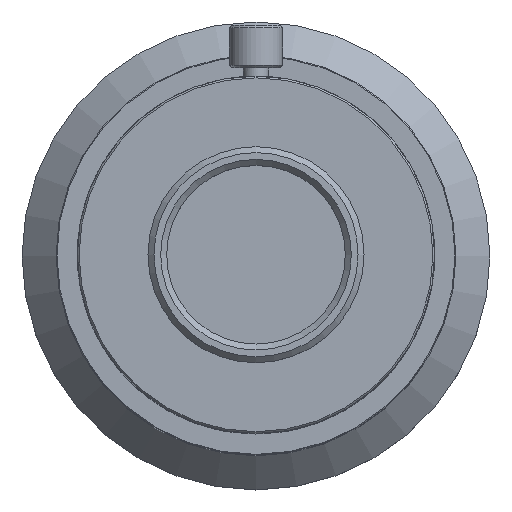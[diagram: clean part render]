
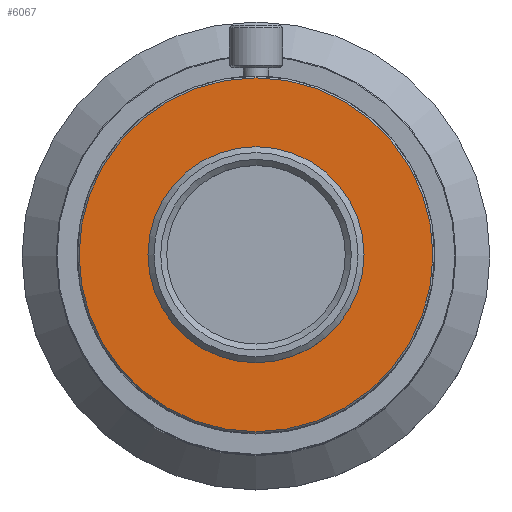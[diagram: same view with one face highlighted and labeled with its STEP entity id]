
A CAD part, top view. The second image highlights one B-rep face of the part: STEP entity #6067.
In plain terms, the highlighted planar face has unit normal (0, 0, 1).
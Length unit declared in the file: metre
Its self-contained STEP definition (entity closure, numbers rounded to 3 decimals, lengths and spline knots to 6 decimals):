
#6067=ADVANCED_FACE('0:24063',(#15170,#15171),#15172,.T.);
#11465=EDGE_CURVE('0:11517',#22397,#22397,#22398,.T.);
#11467=EDGE_CURVE('0:11505',#22400,#22400,#22401,.T.);
#15170=FACE_BOUND('',#26233,.T.);
#15171=FACE_OUTER_BOUND('',#26234,.T.);
#15172=PLANE('',#26235);
#22397=VERTEX_POINT('',#43610);
#22398=CIRCLE('',#43611,0.0121);
#22400=VERTEX_POINT('',#43614);
#22401=CIRCLE('',#43615,0.0208);
#26233=EDGE_LOOP('',(#53173));
#26234=EDGE_LOOP('',(#53174));
#26235=AXIS2_PLACEMENT_3D('',#53175,#53176,#53177);
#43610=CARTESIAN_POINT('',(0.0121,0.,0.221));
#43611=AXIS2_PLACEMENT_3D('',#58289,#58290,#58291);
#43614=CARTESIAN_POINT('',(0.0,-0.0208,0.221));
#43615=AXIS2_PLACEMENT_3D('',#58292,#58293,#58294);
#53173=ORIENTED_EDGE('',*,*,#11465,.F.);
#53174=ORIENTED_EDGE('',*,*,#11467,.T.);
#53175=CARTESIAN_POINT('',(0.0,0.,0.221));
#53176=DIRECTION('',(0.0,0.,1.0));
#53177=DIRECTION('',(0.0,-1.0,0.));
#58289=CARTESIAN_POINT('',(0.0,0.,0.221));
#58290=DIRECTION('',(0.0,0.,1.0));
#58291=DIRECTION('',(1.0,0.0,-0.0));
#58292=CARTESIAN_POINT('',(0.0,0.,0.221));
#58293=DIRECTION('',(0.0,0.,1.0));
#58294=DIRECTION('',(0.0,-1.0,0.));
